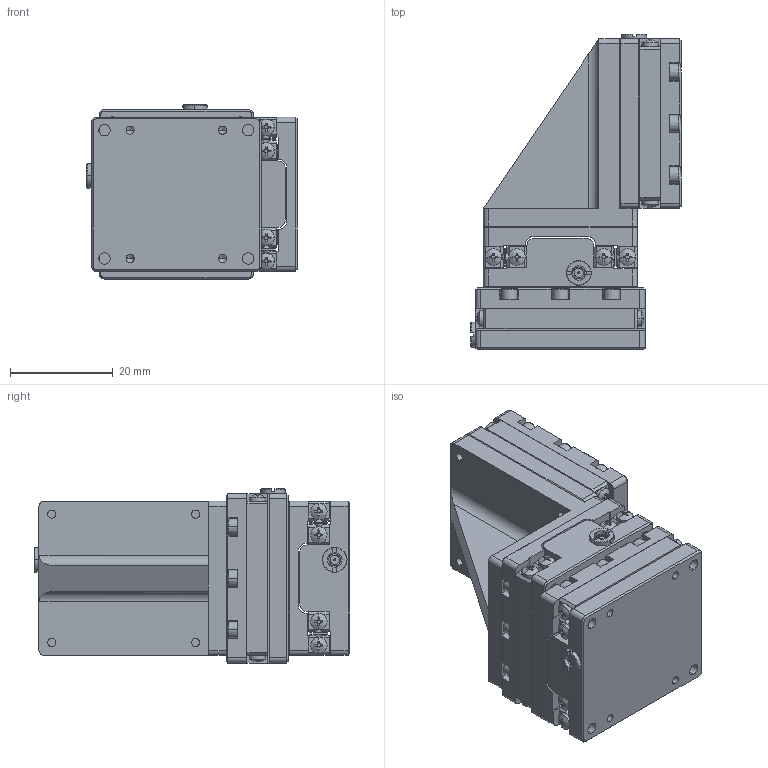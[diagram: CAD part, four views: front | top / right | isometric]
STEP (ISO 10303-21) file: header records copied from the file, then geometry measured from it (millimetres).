
FILE_DESCRIPTION (( 'STEP AP214' ), '1' );
FILE_NAME ('N56.XYZ10K-B1开环三维直线压电马达3D图（25.08.01）.STEP', '2025-08-01T01:14:38', ( '微软用户' ), ( '微软中国' ), 'SwSTEP 2.0', 'SolidWorks 2016', '' );
FILE_SCHEMA (( 'AUTOMOTIVE_DESIGN' ));
Length unit declared in the file: millimetre
Products named in the file (1): N56.XYZ10K-B1开环三维直线压电马达3D图（25.08.01）
Bounding box: 40.9 x 61.4 x 33.9 mm (x, y, z)
Volume: 33958.3 mm3; surface area: 36729.6 mm2
Topology: 130 solids, 130 shells, 3112 faces, 7844 edges, 5051 vertices
Faces by surface type: plane 1614, cylinder 1125, cone 253, bspline 120
Entity records: 96071 total; most frequent: CARTESIAN_POINT 19850, DIRECTION 15766, ORIENTED_EDGE 15324, EDGE_CURVE 7662, AXIS2_PLACEMENT_3D 5773, VERTEX_POINT 5051, VECTOR 4220, LINE 4220
